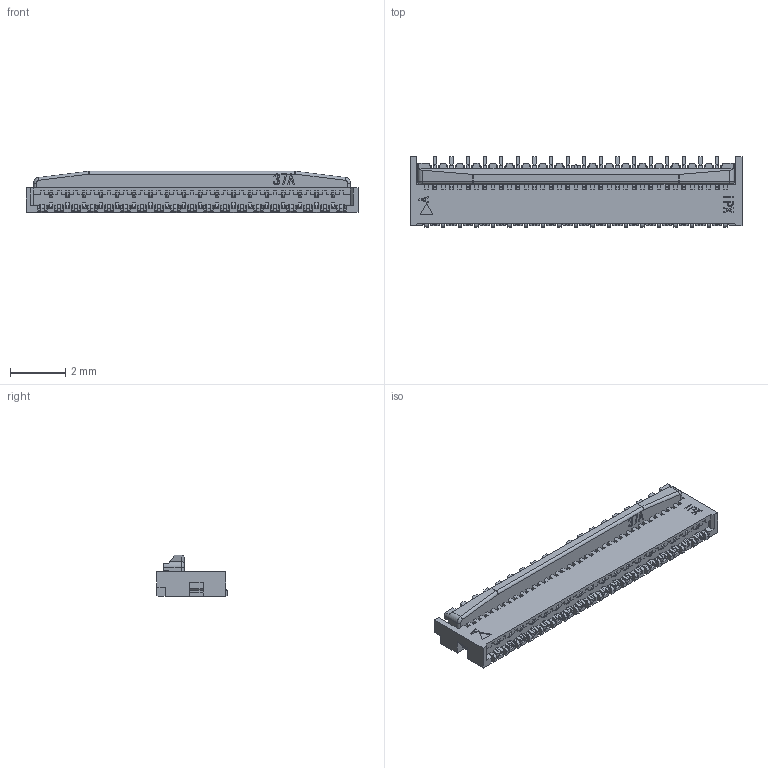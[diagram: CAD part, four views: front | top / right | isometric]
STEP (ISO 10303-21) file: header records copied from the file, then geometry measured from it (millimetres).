
FILE_DESCRIPTION (( 'STEP AP203' ), '1' );
FILE_NAME ('20527-037ExxxC ACT OPEN STEP R3 ALL.STEP', '2012-07-19T10:16:30', ( 'kaihatsu-3dcad-12' ), ( '' ), 'SwSTEP 2.0', 'SolidWorks 2011', '' );
FILE_SCHEMA (( 'CONFIG_CONTROL_DESIGN' ));
Products named in the file (1): 20527-037ExxxC ACT OPEN STEP R3 ALL
Bounding box: 12 x 2.55 x 1.5 mm (x, y, z)
Volume: 23.6 mm3; surface area: 162.8 mm2
Topology: 1 solids, 1 shells, 3472 faces, 10455 edges, 6898 vertices
Faces by surface type: plane 2837, cylinder 599, bspline 32, sphere 2, torus 2
Entity records: 117364 total; most frequent: CARTESIAN_POINT 22700, ORIENTED_EDGE 20906, DIRECTION 18235, EDGE_CURVE 10453, VECTOR 8993, LINE 8993, VERTEX_POINT 6898, AXIS2_PLACEMENT_3D 4621
